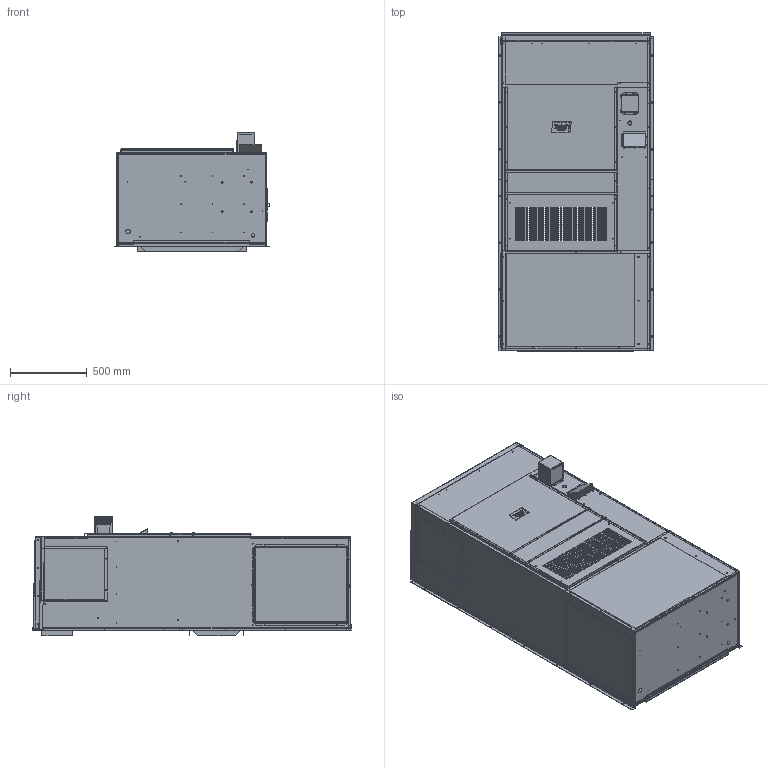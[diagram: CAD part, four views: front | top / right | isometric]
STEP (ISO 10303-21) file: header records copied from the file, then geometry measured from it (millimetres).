
FILE_DESCRIPTION (( 'STEP AP203' ), '1' );
FILE_NAME ('STEP_1700.STEP', '2016-06-29T18:28:15', ( 'BMC' ), ( 'Bard Manufacturing Co., Inc.' ), 'SwSTEP 2.0', 'SolidWorks 2016', '' );
FILE_SCHEMA (( 'CONFIG_CONTROL_DESIGN' ));
Length unit declared in the file: inch
Products named in the file (56): 118-083_SCREEN; 132-162, control panel cover; 152-376; 152-560; 168-119, outer vent hood; 533-162; 110-091; 126-404; 105-1126; 106-242; 148-131; 168-120, inner vent hood; 100-568; 152-347; 108-167; 1171-023, receptacle; 142-070; 152-328; 113-140; 100-748; 108-166; 135-181, air intake hood; 1171-022, turn fastener; 152-559; 5252-033; 118-059; 152-346; STEP_1700
Assembly tree (29 placements, depth 3):
  118-083_SCREEN
  132-162, control panel cover
  152-376
  110-091
  126-404
Bounding box: 1015.05 x 2070.71 x 776.28 mm (x, y, z)
Volume: 8146795.4 mm3; surface area: 16851199.8 mm2
Topology: 34 solids, 38 shells, 3679 faces, 10268 edges, 6681 vertices
Faces by surface type: plane 1614, cylinder 1421, bspline 636, cone 6, torus 2
Entity records: 150648 total; most frequent: CARTESIAN_POINT 52780, ORIENTED_EDGE 19874, DIRECTION 18511, EDGE_CURVE 9939, VERTEX_POINT 6469, AXIS2_PLACEMENT_3D 6458, LINE 5595, VECTOR 5595
